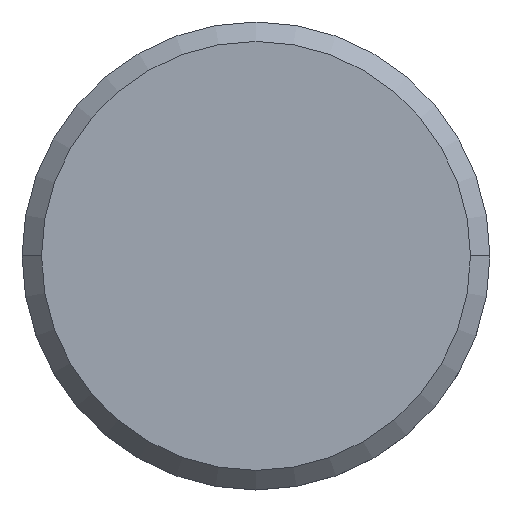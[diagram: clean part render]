
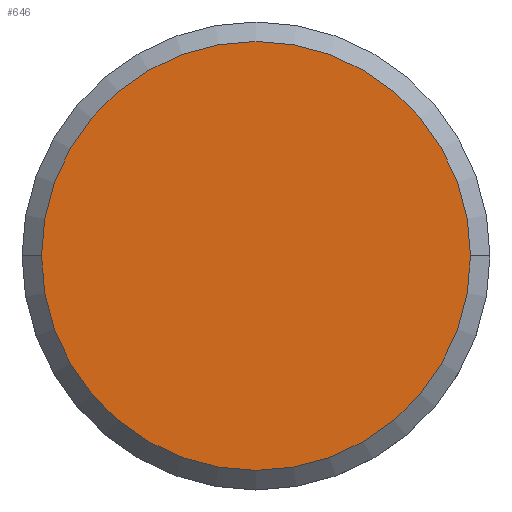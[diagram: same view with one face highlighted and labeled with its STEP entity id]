
A CAD part, top view. The second image highlights one B-rep face of the part: STEP entity #646.
In plain terms, the highlighted planar face has unit normal (0, 0, 1).
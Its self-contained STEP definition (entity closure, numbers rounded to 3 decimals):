
#23 = AXIS2_PLACEMENT_3D ( 'NONE', #719, #662, #523 ) ;
#44 = ORIENTED_EDGE ( 'NONE', *, *, #211, .T. ) ;
#155 = VERTEX_POINT ( 'NONE', #271 ) ;
#167 = DIRECTION ( 'NONE',  ( 0., 0., 1. ) ) ;
#170 = EDGE_CURVE ( 'NONE', #155, #863, #295, .T. ) ;
#211 = EDGE_CURVE ( 'NONE', #863, #155, #922, .T. ) ;
#271 = CARTESIAN_POINT ( 'NONE',  ( -11., 0., 0. ) ) ;
#295 = CIRCLE ( 'NONE', #765, 11. ) ;
#300 = CARTESIAN_POINT ( 'NONE',  ( 11., 0., 0. ) ) ;
#341 = DIRECTION ( 'NONE',  ( -1., 0., 0. ) ) ;
#392 = ORIENTED_EDGE ( 'NONE', *, *, #170, .T. ) ;
#478 = EDGE_LOOP ( 'NONE', ( #392, #44 ) ) ;
#523 = DIRECTION ( 'NONE',  ( -1., 0., 0. ) ) ;
#542 = PLANE ( 'NONE',  #23 ) ;
#582 = DIRECTION ( 'NONE',  ( -1., 0., 0. ) ) ;
#646 = ADVANCED_FACE ( 'NONE', ( #680 ), #542, .F. ) ;
#662 = DIRECTION ( 'NONE',  ( 0., 0., -1. ) ) ;
#680 = FACE_OUTER_BOUND ( 'NONE', #478, .T. ) ;
#690 = CARTESIAN_POINT ( 'NONE',  ( 0., 0., 0. ) ) ;
#719 = CARTESIAN_POINT ( 'NONE',  ( 0., 0., 0. ) ) ;
#765 = AXIS2_PLACEMENT_3D ( 'NONE', #773, #167, #341 ) ;
#773 = CARTESIAN_POINT ( 'NONE',  ( 0., 0., 0. ) ) ;
#860 = AXIS2_PLACEMENT_3D ( 'NONE', #690, #888, #582 ) ;
#863 = VERTEX_POINT ( 'NONE', #300 ) ;
#888 = DIRECTION ( 'NONE',  ( 0., 0., 1. ) ) ;
#922 = CIRCLE ( 'NONE', #860, 11. ) ;
